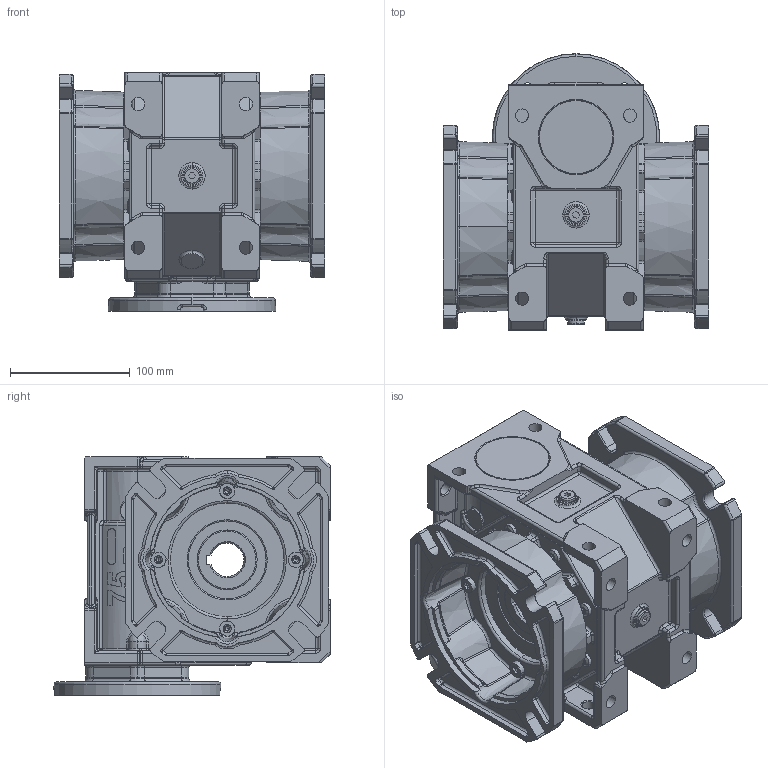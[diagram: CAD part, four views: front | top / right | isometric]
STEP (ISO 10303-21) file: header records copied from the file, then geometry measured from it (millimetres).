
FILE_DESCRIPTION (( 'STEP AP214' ), '1' );
FILE_NAME ('MKT75-FFRL-80-115.STEP', '2006-05-10T06:09:16', ( '' ), ( '' ), 'SwSTEP 2.0', 'SolidWorks 2004146', '' );
FILE_SCHEMA (( 'AUTOMOTIVE_DESIGN' ));
Length unit declared in the file: millimetre
Products named in the file (6): D6912_Šroub DIN 6912 - M8x25; pøíruba115 d72 MRT80a_Výchozí; Skrin MKT75_MKT 75 AP80; D6912_Šroub DIN 6912 - M6x25; Pøíruba FF MKT 75_Výchozí; MKT75-FFRL-80-115
Assembly tree (18 placements, depth 2):
  MKT75-FFRL-80-115
    Pøíruba FF MKT 75_Výchozí  x2
    D6912_Šroub DIN 6912 - M8x25  x8
    pøíruba115 d72 MRT80a_Výchozí
    D6912_Šroub DIN 6912 - M6x25  x6
    Skrin MKT75_MKT 75 AP80
Bounding box: 222 x 230.81 x 199 mm (x, y, z)
Volume: 3834416.8 mm3; surface area: 471942.4 mm2
Topology: 18 solids, 18 shells, 3790 faces, 8844 edges, 4956 vertices
Faces by surface type: cylinder 1311, torus 696, plane 675, bspline 434, sphere 353, cone 321
Entity records: 246301 total; most frequent: CARTESIAN_POINT 179465, DIRECTION 14097, ORIENTED_EDGE 12890, EDGE_CURVE 6445, AXIS2_PLACEMENT_3D 6020, VERTEX_POINT 3790, CIRCLE 3550, EDGE_LOOP 2947
